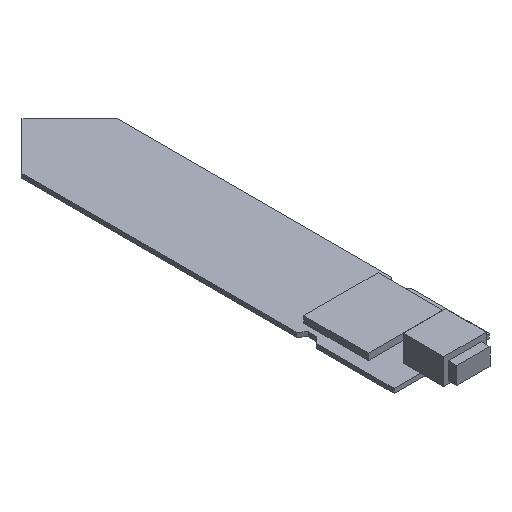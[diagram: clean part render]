
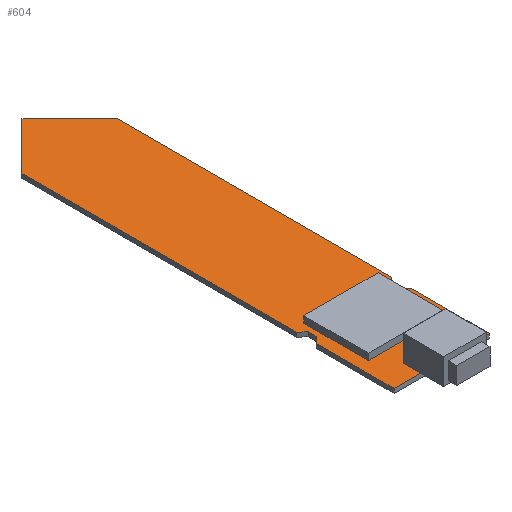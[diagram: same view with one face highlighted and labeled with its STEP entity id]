
A CAD part, isometric view. The second image highlights one B-rep face of the part: STEP entity #604.
In plain terms, the highlighted planar face has unit normal (0, 0, 1).
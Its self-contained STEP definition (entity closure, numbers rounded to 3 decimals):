
#15=FACE_BOUND('',#79,.T.);
#46=FACE_OUTER_BOUND('',#78,.T.);
#78=EDGE_LOOP('',(#506,#507,#508,#509,#510,#511,#512,#513,#514,#515,#516,
#517,#518,#519,#520,#521,#522));
#79=EDGE_LOOP('',(#523,#524,#525,#526));
#92=LINE('',#828,#171);
#96=LINE('',#836,#175);
#99=LINE('',#842,#178);
#102=LINE('',#847,#181);
#104=LINE('',#853,#183);
#109=LINE('',#863,#188);
#115=LINE('',#875,#194);
#119=LINE('',#884,#198);
#123=LINE('',#892,#202);
#126=LINE('',#898,#205);
#139=LINE('',#924,#218);
#141=LINE('',#929,#220);
#144=LINE('',#934,#223);
#146=LINE('',#938,#225);
#148=LINE('',#942,#227);
#151=LINE('',#948,#230);
#153=LINE('',#951,#232);
#154=LINE('',#953,#233);
#155=LINE('',#955,#234);
#157=LINE('',#958,#236);
#158=LINE('',#960,#237);
#171=VECTOR('',#682,10.);
#175=VECTOR('',#688,10.);
#178=VECTOR('',#693,10.);
#181=VECTOR('',#698,10.);
#183=VECTOR('',#704,10.);
#188=VECTOR('',#711,10.);
#194=VECTOR('',#721,10.);
#198=VECTOR('',#731,10.);
#202=VECTOR('',#737,10.);
#205=VECTOR('',#742,10.);
#218=VECTOR('',#759,10.);
#220=VECTOR('',#763,10.);
#223=VECTOR('',#768,10.);
#225=VECTOR('',#772,10.);
#227=VECTOR('',#776,10.);
#230=VECTOR('',#781,10.);
#232=VECTOR('',#785,10.);
#233=VECTOR('',#788,10.);
#234=VECTOR('',#789,10.);
#236=VECTOR('',#793,10.);
#237=VECTOR('',#796,10.);
#246=VERTEX_POINT('',#826);
#247=VERTEX_POINT('',#827);
#250=VERTEX_POINT('',#835);
#252=VERTEX_POINT('',#841);
#254=VERTEX_POINT('',#851);
#255=VERTEX_POINT('',#852);
#259=VERTEX_POINT('',#861);
#263=VERTEX_POINT('',#874);
#264=VERTEX_POINT('',#882);
#265=VERTEX_POINT('',#883);
#268=VERTEX_POINT('',#891);
#270=VERTEX_POINT('',#897);
#281=VERTEX_POINT('',#923);
#282=VERTEX_POINT('',#927);
#283=VERTEX_POINT('',#928);
#284=VERTEX_POINT('',#933);
#285=VERTEX_POINT('',#937);
#286=VERTEX_POINT('',#941);
#287=VERTEX_POINT('',#945);
#288=VERTEX_POINT('',#947);
#289=VERTEX_POINT('',#954);
#302=EDGE_CURVE('',#246,#247,#92,.T.);
#306=EDGE_CURVE('',#247,#250,#96,.T.);
#309=EDGE_CURVE('',#250,#252,#99,.T.);
#312=EDGE_CURVE('',#252,#246,#102,.T.);
#314=EDGE_CURVE('',#254,#255,#104,.T.);
#319=EDGE_CURVE('',#255,#259,#109,.T.);
#325=EDGE_CURVE('',#263,#254,#115,.T.);
#329=EDGE_CURVE('',#264,#265,#119,.T.);
#333=EDGE_CURVE('',#265,#268,#123,.T.);
#336=EDGE_CURVE('',#270,#264,#126,.T.);
#349=EDGE_CURVE('',#281,#270,#139,.T.);
#351=EDGE_CURVE('',#282,#283,#141,.T.);
#354=EDGE_CURVE('',#284,#282,#144,.T.);
#356=EDGE_CURVE('',#283,#285,#146,.T.);
#358=EDGE_CURVE('',#286,#284,#148,.T.);
#361=EDGE_CURVE('',#288,#287,#151,.T.);
#363=EDGE_CURVE('',#268,#288,#153,.T.);
#364=EDGE_CURVE('',#259,#281,#154,.T.);
#365=EDGE_CURVE('',#289,#263,#155,.T.);
#367=EDGE_CURVE('',#285,#289,#157,.T.);
#368=EDGE_CURVE('',#287,#286,#158,.T.);
#506=ORIENTED_EDGE('',*,*,#319,.T.);
#507=ORIENTED_EDGE('',*,*,#364,.T.);
#508=ORIENTED_EDGE('',*,*,#349,.T.);
#509=ORIENTED_EDGE('',*,*,#336,.T.);
#510=ORIENTED_EDGE('',*,*,#329,.T.);
#511=ORIENTED_EDGE('',*,*,#333,.T.);
#512=ORIENTED_EDGE('',*,*,#363,.T.);
#513=ORIENTED_EDGE('',*,*,#361,.T.);
#514=ORIENTED_EDGE('',*,*,#368,.T.);
#515=ORIENTED_EDGE('',*,*,#358,.T.);
#516=ORIENTED_EDGE('',*,*,#354,.T.);
#517=ORIENTED_EDGE('',*,*,#351,.T.);
#518=ORIENTED_EDGE('',*,*,#356,.T.);
#519=ORIENTED_EDGE('',*,*,#367,.T.);
#520=ORIENTED_EDGE('',*,*,#365,.T.);
#521=ORIENTED_EDGE('',*,*,#325,.T.);
#522=ORIENTED_EDGE('',*,*,#314,.T.);
#523=ORIENTED_EDGE('',*,*,#302,.T.);
#524=ORIENTED_EDGE('',*,*,#306,.T.);
#525=ORIENTED_EDGE('',*,*,#309,.T.);
#526=ORIENTED_EDGE('',*,*,#312,.T.);
#557=PLANE('',#655);
#604=ADVANCED_FACE('',(#46,#15),#557,.T.);
#655=AXIS2_PLACEMENT_3D('',#961,#797,#798);
#682=DIRECTION('',(0.,1.,0.));
#688=DIRECTION('',(1.,0.,0.));
#693=DIRECTION('',(0.,-1.,0.));
#698=DIRECTION('',(-1.,0.,0.));
#704=DIRECTION('',(1.,0.,0.));
#711=DIRECTION('',(0.,-1.,0.));
#721=DIRECTION('',(0.,1.,0.));
#731=DIRECTION('',(0.,1.,0.));
#737=DIRECTION('',(0.746,0.666,0.));
#742=DIRECTION('',(-0.746,0.666,0.));
#759=DIRECTION('',(0.,1.,0.));
#763=DIRECTION('',(0.,-1.,0.));
#768=DIRECTION('',(0.746,-0.666,0.));
#772=DIRECTION('',(-0.746,-0.666,0.));
#776=DIRECTION('',(0.,-1.,0.));
#781=DIRECTION('',(-0.707,0.707,0.));
#785=DIRECTION('',(0.,1.,0.));
#788=DIRECTION('',(1.,0.,0.));
#789=DIRECTION('',(1.,0.,0.));
#793=DIRECTION('',(0.,-1.,0.));
#796=DIRECTION('',(-0.707,-0.707,0.));
#797=DIRECTION('center_axis',(0.,0.,1.));
#798=DIRECTION('ref_axis',(1.,0.,0.));
#826=CARTESIAN_POINT('',(-8.4,-34.5,0.5));
#827=CARTESIAN_POINT('',(-8.4,-19.5,0.5));
#828=CARTESIAN_POINT('',(-8.4,-7.,0.5));
#835=CARTESIAN_POINT('',(8.8,-19.5,0.5));
#836=CARTESIAN_POINT('',(4.4,-19.5,0.5));
#841=CARTESIAN_POINT('',(8.8,-34.5,0.5));
#842=CARTESIAN_POINT('',(8.8,-14.5,0.5));
#847=CARTESIAN_POINT('',(-4.2,-34.5,0.5));
#851=CARTESIAN_POINT('',(-4.9,-39.,0.5));
#852=CARTESIAN_POINT('',(4.9,-39.,0.5));
#853=CARTESIAN_POINT('',(2.45,-39.,0.5));
#861=CARTESIAN_POINT('',(4.9,-43.,0.5));
#863=CARTESIAN_POINT('',(4.9,-21.45,0.5));
#874=CARTESIAN_POINT('',(-4.9,-43.,0.5));
#875=CARTESIAN_POINT('',(-4.9,-16.75,0.5));
#882=CARTESIAN_POINT('',(9.6,-23.75,0.5));
#883=CARTESIAN_POINT('',(9.6,-21.75,0.5));
#884=CARTESIAN_POINT('',(9.6,-8.125,0.5));
#891=CARTESIAN_POINT('',(11.,-20.5,0.5));
#892=CARTESIAN_POINT('',(14.398,-17.466,0.5));
#897=CARTESIAN_POINT('',(11.,-25.,0.5));
#898=CARTESIAN_POINT('',(-0.337,-14.878,0.5));
#923=CARTESIAN_POINT('',(11.,-43.,0.5));
#924=CARTESIAN_POINT('',(11.,-43.,0.5));
#927=CARTESIAN_POINT('',(-9.6,-21.75,0.5));
#928=CARTESIAN_POINT('',(-9.6,-23.75,0.5));
#929=CARTESIAN_POINT('',(-9.6,-8.125,0.5));
#933=CARTESIAN_POINT('',(-11.,-20.5,0.5));
#934=CARTESIAN_POINT('',(-14.398,-17.466,0.5));
#937=CARTESIAN_POINT('',(-11.,-25.,0.5));
#938=CARTESIAN_POINT('',(0.337,-14.878,0.5));
#941=CARTESIAN_POINT('',(-11.,43.,0.5));
#942=CARTESIAN_POINT('',(-11.,43.,0.5));
#945=CARTESIAN_POINT('',(0.,54.,0.5));
#947=CARTESIAN_POINT('',(11.,43.,0.5));
#948=CARTESIAN_POINT('',(11.,43.,0.5));
#951=CARTESIAN_POINT('',(11.,-43.,0.5));
#953=CARTESIAN_POINT('',(-11.,-43.,0.5));
#954=CARTESIAN_POINT('',(-11.,-43.,0.5));
#955=CARTESIAN_POINT('',(-11.,-43.,0.5));
#958=CARTESIAN_POINT('',(-11.,43.,0.5));
#960=CARTESIAN_POINT('',(0.,54.,0.5));
#961=CARTESIAN_POINT('Origin',(0.,5.5,0.5));
